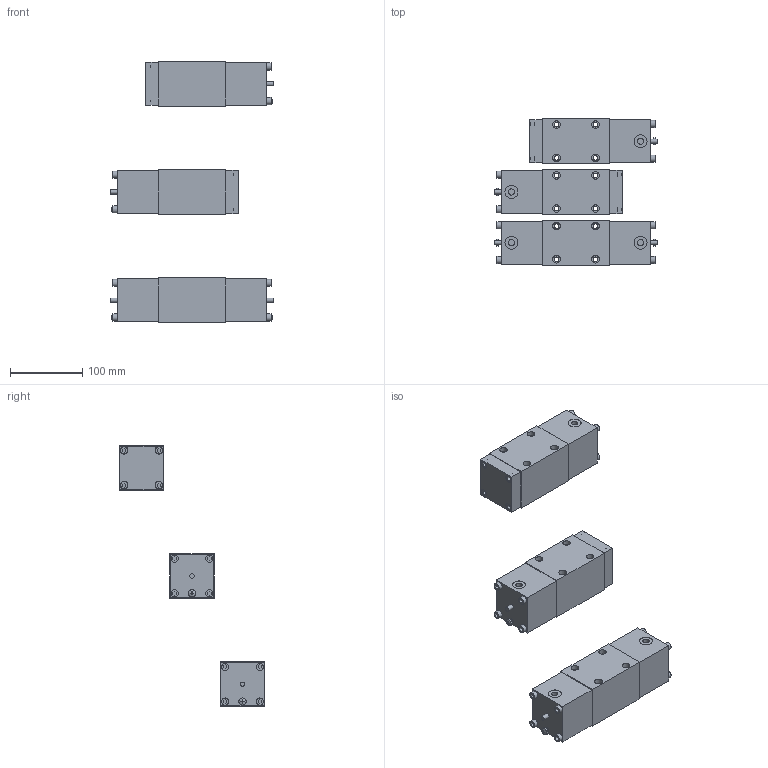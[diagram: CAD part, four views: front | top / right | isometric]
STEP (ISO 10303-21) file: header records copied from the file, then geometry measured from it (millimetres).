
FILE_DESCRIPTION(('Bauteilbeschreibung','HiCAD-Model','HiCAD-STEP-TRANSLATION','Bauteilbeschreibung'),'2;1');
FILE_NAME('P:/HICADDATEN/STEP_DXF/AK4_10.STP','2006-08-09T17:47:59+00:00',('Konstrukteur'),('Konstrukteur Firma GmbH'),'HiCAD3 V1210 STEP 1.6.2005','HiCAD3 V1210','confidential');
FILE_SCHEMA(('AUTOMOTIVE_DESIGN { 1 2 10303 214 0 1 1 1 }'));
Length unit declared in the file: millimetre
Products named in the file (52): AK4_10; AK4D10; AB0A2E13; A995C5BB; A995C5BB0; IN6KTM6; IN6KTM60; IN6KTM61; IN6KTM62; IN6KTM63; A205B8BF; A995C5BB1; A995C5BB2; IN6KTM64; IN6KTM65; IN6KTM66; IN6KTM67; IN6KTM68; AK4Z10_A; D201A9E0; A995C5BB3; A995C5BB4; IN6KTM69; IN6KTM610; IN6KTM611; IN6KTM612; IN6KTM613; A205B8BF0; A275F443; A275F4430; IN6KTM614; IN6KTM615; IN6KTM616; IN6KTM617; IN6KTM618; AK4Z10_B; ACEA37FD; A205B8BF1; A995C5BB5; A995C5BB6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
Assembly tree (51 placements, depth 6):
  AK4_10
    AK4D10
      AB0A2E13
        A995C5BB
        A995C5BB0
          IN6KTM6
            IN6KTM60
            IN6KTM61
            IN6KTM62
            IN6KTM63
        A205B8BF
        A995C5BB1
        A995C5BB2
          IN6KTM64
            IN6KTM65
            IN6KTM66
            IN6KTM67
            IN6KTM68
    AK4Z10_A
      D201A9E0
        A995C5BB3
        A995C5BB4
          IN6KTM69
            IN6KTM610
            IN6KTM611
            IN6KTM612
            IN6KTM613
        A205B8BF0
        A275F443
        A275F4430
          IN6KTM614
            IN6KTM615
            IN6KTM616
            IN6KTM617
            IN6KTM618
    AK4Z10_B
      ACEA37FD
        A205B8BF1
        A995C5BB5
        A995C5BB6
          IN6KTM619
            IN6KTM620
            IN6KTM621
            IN6KTM622
            IN6KTM623
        A275F4431
        A275F4432
          IN6KTM624
            IN6KTM625
            IN6KTM626
            IN6KTM627
            IN6KTM628
Bounding box: 226.6 x 202 x 362 mm (x, y, z)
Volume: 1948918.7 mm3; surface area: 254802.6 mm2
Topology: 33 solids, 33 shells, 600 faces, 1274 edges, 847 vertices
Faces by surface type: plane 441, cylinder 155, sphere 4
Full cylindrical faces by diameter (mm): 5 x4, 6 x28, 6.5 x36, 8.7 x4, 10 x28, 10.5 x20, 16.9 x15, 18 x4
Entity records: 26131 total; most frequent: DIRECTION 2804, CARTESIAN_POINT 2498, ORIENTED_EDGE 2084, COLOUR_RGB 1675, PRESENTATION_STYLE_ASSIGNMENT 1675, OVER_RIDING_STYLED_ITEM 1642, AXIS2_PLACEMENT_3D 1060, CURVE_STYLE 1042
